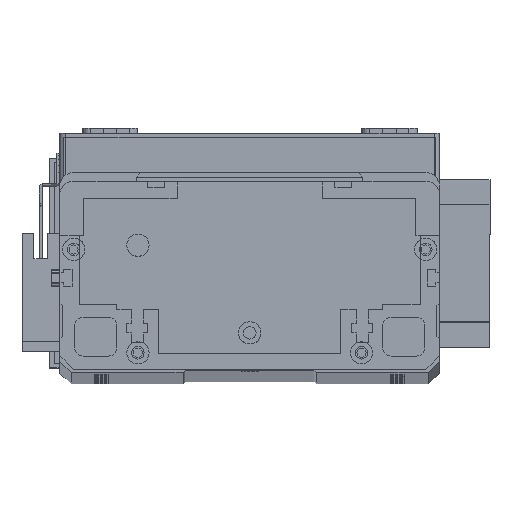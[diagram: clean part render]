
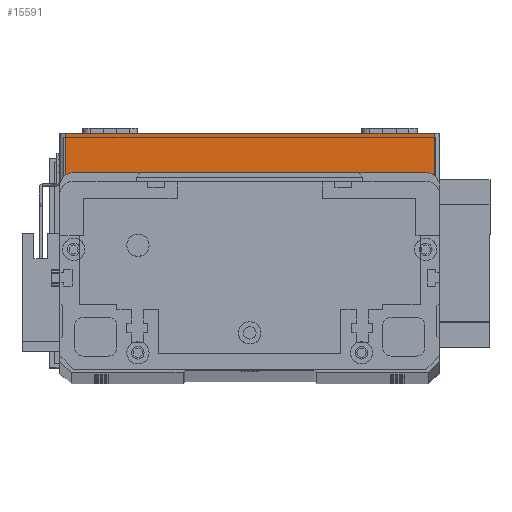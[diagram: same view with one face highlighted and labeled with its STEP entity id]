
A CAD part, top view. The second image highlights one B-rep face of the part: STEP entity #15591.
In plain terms, the highlighted planar face has unit normal (0, 0, 1) as drawn and (0, -1, 0) by its records, which use the part's own axes.
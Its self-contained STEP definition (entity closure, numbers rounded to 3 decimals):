
#1786 = VERTEX_POINT ( 'NONE', #24447 ) ;
#3037 = DIRECTION ( 'NONE',  ( 0., 0., 1. ) ) ;
#3601 = DIRECTION ( 'NONE',  ( 0., 0., 1. ) ) ;
#3646 = LINE ( 'NONE', #7114, #21613 ) ;
#3873 = VECTOR ( 'NONE', #3037, 1000. ) ;
#4438 = EDGE_CURVE ( 'NONE', #23117, #7050, #27798, .T. ) ;
#5139 = CARTESIAN_POINT ( 'NONE',  ( 0., 0., 0. ) ) ;
#5346 = LINE ( 'NONE', #10346, #23344 ) ;
#5386 = CARTESIAN_POINT ( 'NONE',  ( 134., 0., 0. ) ) ;
#5644 = EDGE_CURVE ( 'NONE', #7050, #17108, #16340, .T. ) ;
#6276 = CARTESIAN_POINT ( 'NONE',  ( 2., 0., 0. ) ) ;
#7050 = VERTEX_POINT ( 'NONE', #5386 ) ;
#7060 = ORIENTED_EDGE ( 'NONE', *, *, #19260, .T. ) ;
#7114 = CARTESIAN_POINT ( 'NONE',  ( 0., 0., 19.5 ) ) ;
#10346 = CARTESIAN_POINT ( 'NONE',  ( 2., 0., 19.5 ) ) ;
#14663 = AXIS2_PLACEMENT_3D ( 'NONE', #26996, #17664, #3601 ) ;
#15238 = ORIENTED_EDGE ( 'NONE', *, *, #16466, .F. ) ;
#15288 = PLANE ( 'NONE',  #14663 ) ;
#15591 = ADVANCED_FACE ( 'NONE', ( #20216 ), #15288, .F. ) ;
#15634 = ORIENTED_EDGE ( 'NONE', *, *, #5644, .T. ) ;
#16340 = LINE ( 'NONE', #21703, #3873 ) ;
#16466 = EDGE_CURVE ( 'NONE', #1786, #17108, #3646, .T. ) ;
#17108 = VERTEX_POINT ( 'NONE', #28104 ) ;
#17431 = DIRECTION ( 'NONE',  ( 0., 0., -1. ) ) ;
#17664 = DIRECTION ( 'NONE',  ( 0., 1., 0. ) ) ;
#18100 = EDGE_LOOP ( 'NONE', ( #15238, #7060, #20378, #15634 ) ) ;
#19260 = EDGE_CURVE ( 'NONE', #1786, #23117, #5346, .T. ) ;
#20216 = FACE_OUTER_BOUND ( 'NONE', #18100, .T. ) ;
#20378 = ORIENTED_EDGE ( 'NONE', *, *, #4438, .T. ) ;
#21536 = VECTOR ( 'NONE', #28636, 1000. ) ;
#21613 = VECTOR ( 'NONE', #28353, 1000. ) ;
#21703 = CARTESIAN_POINT ( 'NONE',  ( 134., 0., 19.5 ) ) ;
#23117 = VERTEX_POINT ( 'NONE', #6276 ) ;
#23344 = VECTOR ( 'NONE', #17431, 1000. ) ;
#24447 = CARTESIAN_POINT ( 'NONE',  ( 2., 0., 19.5 ) ) ;
#26996 = CARTESIAN_POINT ( 'NONE',  ( 0., 0., 19.5 ) ) ;
#27798 = LINE ( 'NONE', #5139, #21536 ) ;
#28104 = CARTESIAN_POINT ( 'NONE',  ( 134., 0., 19.5 ) ) ;
#28353 = DIRECTION ( 'NONE',  ( 1., 0., 0. ) ) ;
#28636 = DIRECTION ( 'NONE',  ( 1., 0., 0. ) ) ;
